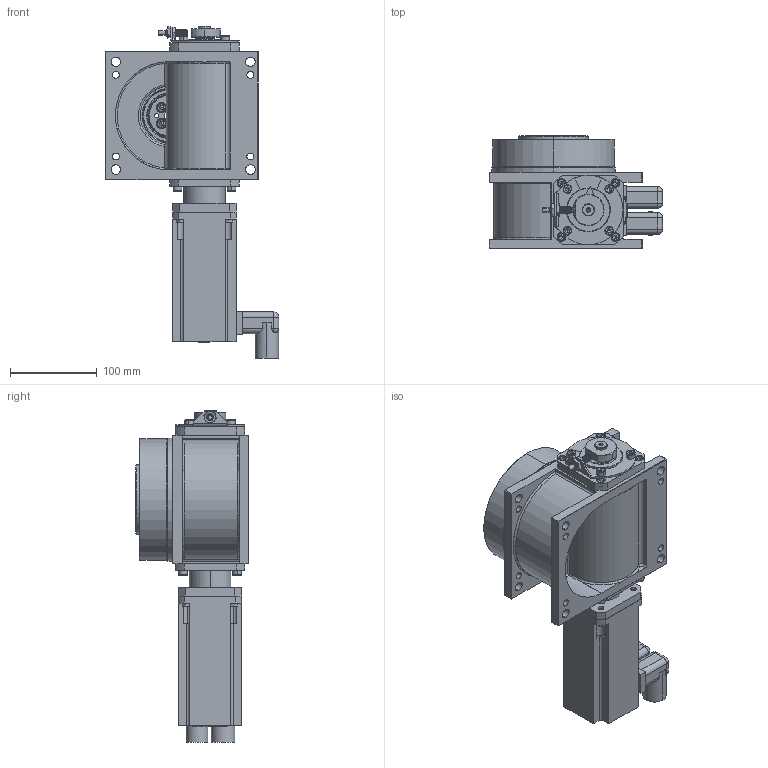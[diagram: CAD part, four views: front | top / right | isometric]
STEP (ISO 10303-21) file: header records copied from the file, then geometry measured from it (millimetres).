
FILE_DESCRIPTION (( 'STEP AP214' ), '1' );
FILE_NAME ('M140_SEW_Servo_SEW_CMP50S_D.STEP', '2021-01-22T15:22:09', ( '' ), ( '' ), 'SwSTEP 2.0', 'SolidWorks 2020', '' );
FILE_SCHEMA (( 'AUTOMOTIVE_DESIGN' ));
Length unit declared in the file: millimetre
Products named in the file (1): M140_SEW_Servo_SEW_CMP50S_D
Bounding box: 199.5 x 130.7 x 382.25 mm (x, y, z)
Surface area: 263422.2 mm2 (no closed solid volume)
Topology: 0 solids, 54 shells, 875 faces, 2606 edges, 1704 vertices
Faces by surface type: plane 362, cylinder 300, cone 108, bspline 51, torus 46, sphere 8
Entity records: 45108 total; most frequent: CARTESIAN_POINT 12810, DIRECTION 4666, ORIENTED_EDGE 4432, EDGE_CURVE 2566, VERTEX_POINT 1704, AXIS2_PLACEMENT_3D 1664, LINE 1338, VECTOR 1338
